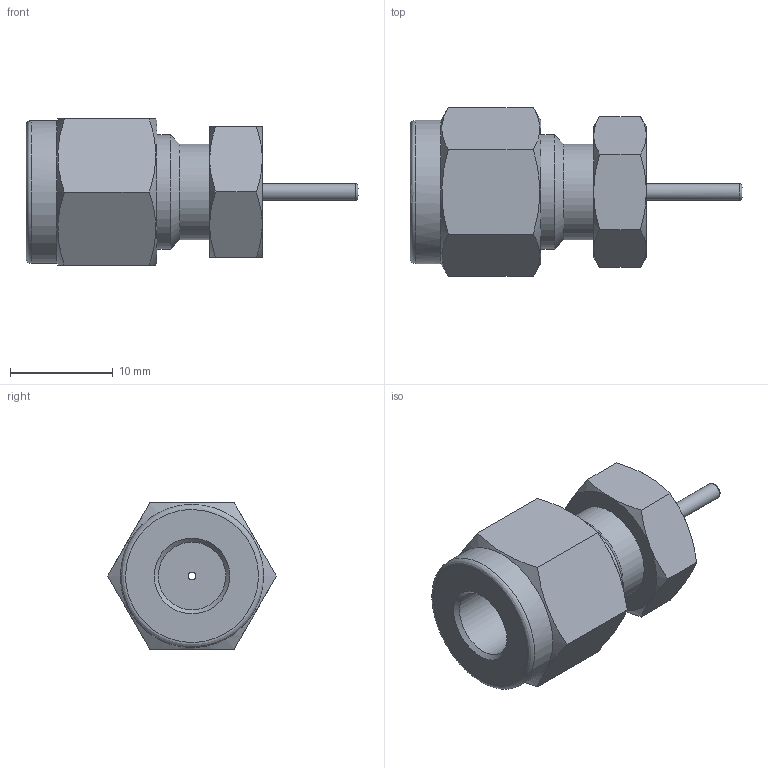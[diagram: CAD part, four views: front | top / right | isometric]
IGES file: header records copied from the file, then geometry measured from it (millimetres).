
Global section: file name: SR-4-1; native system: Autodesk Inventor 2016; preprocessor: unknown; author: DESIGNPC2; date: 20151111.160832; units: millimetre
Bounding box: 32.25 x 16.4 x 14.2 mm (x, y, z)
Volume: 2733.7 mm3; surface area: 1824.4 mm2
Topology: 1 solids, 1 shells, 42 faces, 106 edges, 70 vertices
Faces by surface type: bspline 42
